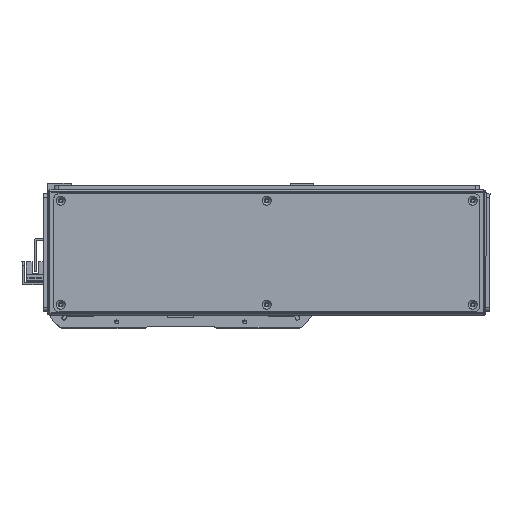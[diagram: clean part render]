
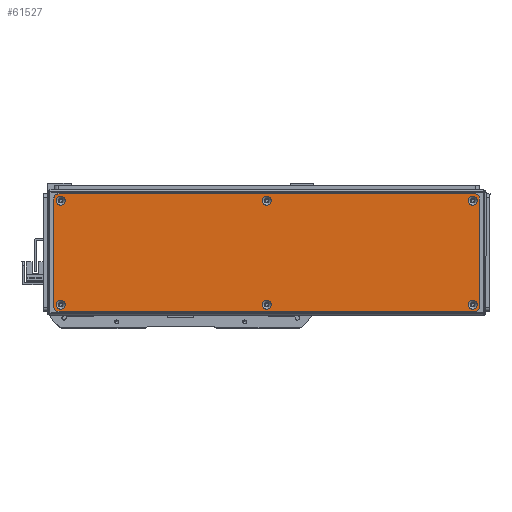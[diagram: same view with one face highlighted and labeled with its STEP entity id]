
A CAD part, front view. The second image highlights one B-rep face of the part: STEP entity #61527.
In plain terms, the highlighted planar face has unit normal (0, -1, 0).
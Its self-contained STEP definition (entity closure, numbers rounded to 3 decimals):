
#2223=FACE_BOUND('',#9943,.T.);
#2224=FACE_BOUND('',#9944,.T.);
#2225=FACE_BOUND('',#9945,.T.);
#2226=FACE_BOUND('',#9946,.T.);
#2227=FACE_BOUND('',#9947,.T.);
#2228=FACE_BOUND('',#9948,.T.);
#3384=CIRCLE('',#66061,3.45);
#3387=CIRCLE('',#66066,3.45);
#3390=CIRCLE('',#66071,3.45);
#3393=CIRCLE('',#66076,3.45);
#3396=CIRCLE('',#66081,3.45);
#3399=CIRCLE('',#66086,3.45);
#3402=CIRCLE('',#66091,3.);
#3404=CIRCLE('',#66094,3.);
#3405=CIRCLE('',#66095,3.);
#3406=CIRCLE('',#66096,3.);
#6449=FACE_OUTER_BOUND('',#9942,.T.);
#9942=EDGE_LOOP('',(#55017,#55018,#55019,#55020,#55021,#55022,#55023,#55024));
#9943=EDGE_LOOP('',(#55025));
#9944=EDGE_LOOP('',(#55026));
#9945=EDGE_LOOP('',(#55027));
#9946=EDGE_LOOP('',(#55028));
#9947=EDGE_LOOP('',(#55029));
#9948=EDGE_LOOP('',(#55030));
#16996=LINE('',#100428,#24167);
#16997=LINE('',#100432,#24168);
#16998=LINE('',#100436,#24169);
#16999=LINE('',#100439,#24170);
#24167=VECTOR('',#81271,10.);
#24168=VECTOR('',#81274,10.);
#24169=VECTOR('',#81277,10.);
#24170=VECTOR('',#81280,10.);
#29938=VERTEX_POINT('',#100358);
#29941=VERTEX_POINT('',#100368);
#29944=VERTEX_POINT('',#100378);
#29947=VERTEX_POINT('',#100388);
#29950=VERTEX_POINT('',#100398);
#29953=VERTEX_POINT('',#100408);
#29956=VERTEX_POINT('',#100418);
#29957=VERTEX_POINT('',#100419);
#29960=VERTEX_POINT('',#100427);
#29961=VERTEX_POINT('',#100429);
#29962=VERTEX_POINT('',#100431);
#29963=VERTEX_POINT('',#100433);
#29964=VERTEX_POINT('',#100435);
#29965=VERTEX_POINT('',#100437);
#38353=EDGE_CURVE('',#29938,#29938,#3384,.T.);
#38358=EDGE_CURVE('',#29941,#29941,#3387,.T.);
#38363=EDGE_CURVE('',#29944,#29944,#3390,.T.);
#38368=EDGE_CURVE('',#29947,#29947,#3393,.T.);
#38373=EDGE_CURVE('',#29950,#29950,#3396,.T.);
#38378=EDGE_CURVE('',#29953,#29953,#3399,.T.);
#38383=EDGE_CURVE('',#29956,#29957,#3402,.T.);
#38387=EDGE_CURVE('',#29956,#29960,#16996,.T.);
#38388=EDGE_CURVE('',#29961,#29960,#3404,.T.);
#38389=EDGE_CURVE('',#29961,#29962,#16997,.T.);
#38390=EDGE_CURVE('',#29963,#29962,#3405,.T.);
#38391=EDGE_CURVE('',#29963,#29964,#16998,.T.);
#38392=EDGE_CURVE('',#29965,#29964,#3406,.T.);
#38393=EDGE_CURVE('',#29965,#29957,#16999,.T.);
#55017=ORIENTED_EDGE('',*,*,#38383,.F.);
#55018=ORIENTED_EDGE('',*,*,#38387,.T.);
#55019=ORIENTED_EDGE('',*,*,#38388,.F.);
#55020=ORIENTED_EDGE('',*,*,#38389,.T.);
#55021=ORIENTED_EDGE('',*,*,#38390,.F.);
#55022=ORIENTED_EDGE('',*,*,#38391,.T.);
#55023=ORIENTED_EDGE('',*,*,#38392,.F.);
#55024=ORIENTED_EDGE('',*,*,#38393,.T.);
#55025=ORIENTED_EDGE('',*,*,#38353,.T.);
#55026=ORIENTED_EDGE('',*,*,#38358,.T.);
#55027=ORIENTED_EDGE('',*,*,#38363,.T.);
#55028=ORIENTED_EDGE('',*,*,#38368,.T.);
#55029=ORIENTED_EDGE('',*,*,#38373,.T.);
#55030=ORIENTED_EDGE('',*,*,#38378,.T.);
#58548=PLANE('',#66093);
#61527=ADVANCED_FACE('',(#6449,#2223,#2224,#2225,#2226,#2227,#2228),#58548,
 .T.);
#66061=AXIS2_PLACEMENT_3D('',#100359,#81191,#81192);
#66066=AXIS2_PLACEMENT_3D('',#100369,#81203,#81204);
#66071=AXIS2_PLACEMENT_3D('',#100379,#81215,#81216);
#66076=AXIS2_PLACEMENT_3D('',#100389,#81227,#81228);
#66081=AXIS2_PLACEMENT_3D('',#100399,#81239,#81240);
#66086=AXIS2_PLACEMENT_3D('',#100409,#81251,#81252);
#66091=AXIS2_PLACEMENT_3D('',#100420,#81263,#81264);
#66093=AXIS2_PLACEMENT_3D('',#100426,#81269,#81270);
#66094=AXIS2_PLACEMENT_3D('',#100430,#81272,#81273);
#66095=AXIS2_PLACEMENT_3D('',#100434,#81275,#81276);
#66096=AXIS2_PLACEMENT_3D('',#100438,#81278,#81279);
#81191=DIRECTION('center_axis',(0.,1.,0.));
#81192=DIRECTION('ref_axis',(1.,0.,0.));
#81203=DIRECTION('center_axis',(0.,1.,0.));
#81204=DIRECTION('ref_axis',(1.,0.,0.));
#81215=DIRECTION('center_axis',(0.,1.,0.));
#81216=DIRECTION('ref_axis',(1.,0.,0.));
#81227=DIRECTION('center_axis',(0.,1.,0.));
#81228=DIRECTION('ref_axis',(1.,0.,0.));
#81239=DIRECTION('center_axis',(0.,1.,0.));
#81240=DIRECTION('ref_axis',(1.,0.,0.));
#81251=DIRECTION('center_axis',(0.,1.,0.));
#81252=DIRECTION('ref_axis',(1.,0.,0.));
#81263=DIRECTION('center_axis',(0.,1.,0.));
#81264=DIRECTION('ref_axis',(-0.707,0.,0.707));
#81269=DIRECTION('center_axis',(0.,-1.,0.));
#81270=DIRECTION('ref_axis',(0.,0.,-1.));
#81271=DIRECTION('',(0.,0.,-1.));
#81272=DIRECTION('center_axis',(0.,1.,0.));
#81273=DIRECTION('ref_axis',(-0.707,0.,-0.707));
#81274=DIRECTION('',(1.,0.,0.));
#81275=DIRECTION('center_axis',(0.,1.,0.));
#81276=DIRECTION('ref_axis',(0.707,0.,-0.707));
#81277=DIRECTION('',(0.,0.,1.));
#81278=DIRECTION('center_axis',(0.,1.,0.));
#81279=DIRECTION('ref_axis',(0.707,0.,0.707));
#81280=DIRECTION('',(-1.,0.,0.));
#100358=CARTESIAN_POINT('',(151.05,-1.5,39.));
#100359=CARTESIAN_POINT('Origin',(154.5,-1.5,39.));
#100368=CARTESIAN_POINT('',(-3.45,-1.5,39.));
#100369=CARTESIAN_POINT('Origin',(0.,-1.5,39.));
#100378=CARTESIAN_POINT('',(-157.95,-1.5,39.));
#100379=CARTESIAN_POINT('Origin',(-154.5,-1.5,39.));
#100388=CARTESIAN_POINT('',(-157.95,-1.5,-39.));
#100389=CARTESIAN_POINT('Origin',(-154.5,-1.5,-39.));
#100398=CARTESIAN_POINT('',(-3.45,-1.5,-39.));
#100399=CARTESIAN_POINT('Origin',(0.,-1.5,-39.));
#100408=CARTESIAN_POINT('',(151.05,-1.5,-39.));
#100409=CARTESIAN_POINT('Origin',(154.5,-1.5,-39.));
#100418=CARTESIAN_POINT('',(-159.5,-1.5,41.));
#100419=CARTESIAN_POINT('',(-156.5,-1.5,44.));
#100420=CARTESIAN_POINT('Origin',(-156.5,-1.5,41.));
#100426=CARTESIAN_POINT('Origin',(0.,-1.5,0.));
#100427=CARTESIAN_POINT('',(-159.5,-1.5,-41.));
#100428=CARTESIAN_POINT('',(-159.5,-1.5,44.));
#100429=CARTESIAN_POINT('',(-156.5,-1.5,-44.));
#100430=CARTESIAN_POINT('Origin',(-156.5,-1.5,-41.));
#100431=CARTESIAN_POINT('',(156.5,-1.5,-44.));
#100432=CARTESIAN_POINT('',(-159.5,-1.5,-44.));
#100433=CARTESIAN_POINT('',(159.5,-1.5,-41.));
#100434=CARTESIAN_POINT('Origin',(156.5,-1.5,-41.));
#100435=CARTESIAN_POINT('',(159.5,-1.5,41.));
#100436=CARTESIAN_POINT('',(159.5,-1.5,-44.));
#100437=CARTESIAN_POINT('',(156.5,-1.5,44.));
#100438=CARTESIAN_POINT('Origin',(156.5,-1.5,41.));
#100439=CARTESIAN_POINT('',(159.5,-1.5,44.));
